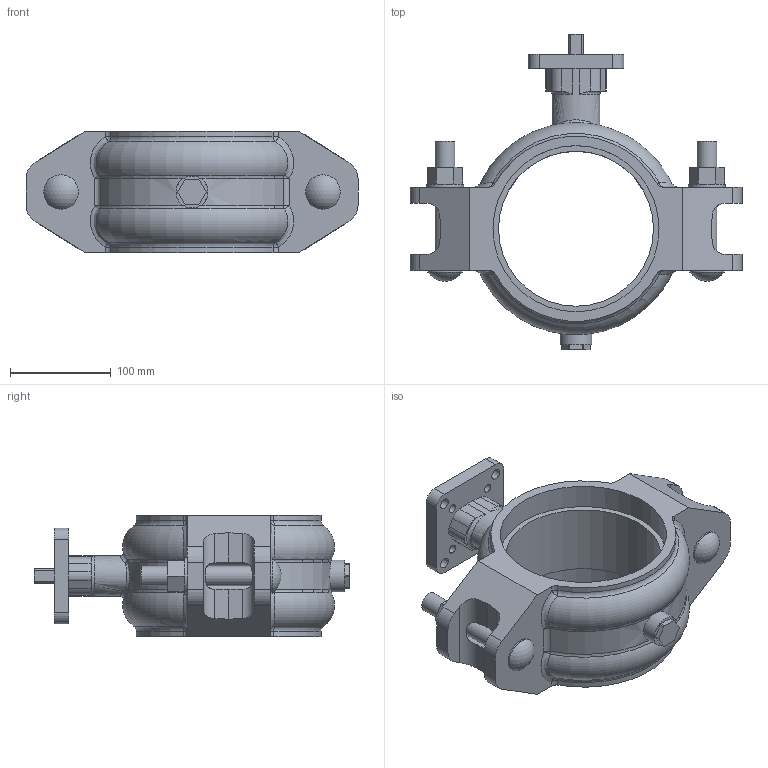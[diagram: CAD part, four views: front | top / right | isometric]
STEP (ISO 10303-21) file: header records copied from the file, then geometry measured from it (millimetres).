
FILE_DESCRIPTION(/* description */ ('VIC SS IR VALVE BUTTERFLY BARE SERIES 124 (OGS)','CAx-IF Rec.Pracs.---Representation and Presentation of Product Manufacturing Information (PMI)---4.0---2014-10-13'),/* implementation_level */ '2;1');
FILE_NAME(/* name */ 'C:\IR-124\step\Victaulic_SS-OGS_Valve Butterfly Bare_IR_Series 124 (OGS)\Victaulic_SS-OGS_Valve Butterfly Bare_IR_Series 124 (OGS)_06.0 (165.1) (150).stp',/* time_stamp */ '2021-08-02T15:24:29+06:00',/* author */ ('Vjadhav'),/* organization */ ('Victaulic'),/* preprocessor_version */ 'ST-DEVELOPER v17.2',/* originating_system */ 'Autodesk Inventor 2019',/* authorisation */ '');
FILE_SCHEMA (('AP242_MANAGED_MODEL_BASED_3D_ENGINEERING_MIM_LF { 1 0 10303 442 1 1 4 }'));
Length unit declared in the file: inch
Products named in the file (1): 124-06.0 (165.1)
Bounding box: 329.95 x 313.94 x 120.9 mm (x, y, z)
Volume: 2542937.1 mm3; surface area: 263185.6 mm2
Topology: 1 solids, 1 shells, 212 faces, 553 edges, 356 vertices
Faces by surface type: plane 91, cylinder 70, bspline 19, sphere 18, torus 14
Full cylindrical faces by diameter (mm): 8.788 x4, 10.795 x4, 19.812 x4, 31.75 x1, 34.29 x2, 36.83 x2, 153.987 x1, 165.1 x2
Entity records: 8006 total; most frequent: CARTESIAN_POINT 2380, DIRECTION 1124, ORIENTED_EDGE 1106, EDGE_CURVE 553, AXIS2_PLACEMENT_3D 424, VERTEX_POINT 356, LINE 276, VECTOR 276
